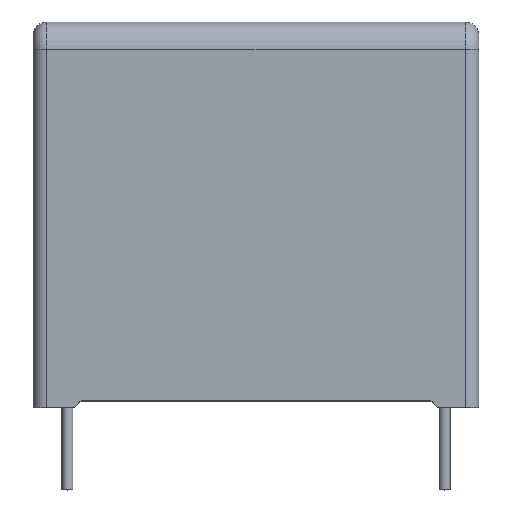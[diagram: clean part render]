
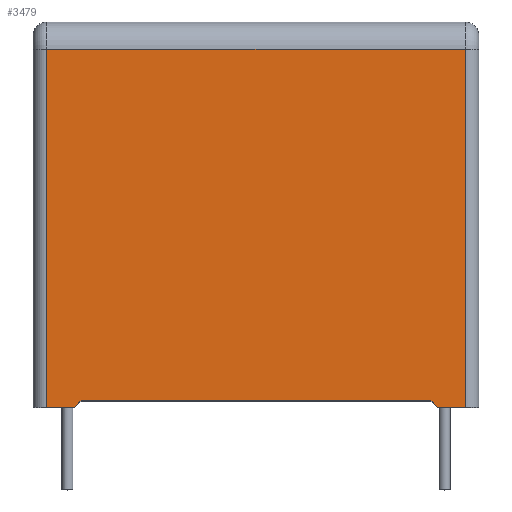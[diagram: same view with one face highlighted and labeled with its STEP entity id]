
A CAD part, top view. The second image highlights one B-rep face of the part: STEP entity #3479.
In plain terms, the highlighted planar face has unit normal (0, 0, 1).
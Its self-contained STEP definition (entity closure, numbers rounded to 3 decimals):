
#50 = LINE ( 'NONE', #1290, #57 ) ;
#57 = VECTOR ( 'NONE', #876, 1000. ) ;
#221 = DIRECTION ( 'NONE',  ( -1., 0., 0. ) ) ;
#254 = FACE_OUTER_BOUND ( 'NONE', #1361, .T. ) ;
#759 = PLANE ( 'NONE',  #3934 ) ;
#789 = DIRECTION ( 'NONE',  ( 0., -1., 0. ) ) ;
#817 = CARTESIAN_POINT ( 'NONE',  ( 12.75, 0.5, 9.25 ) ) ;
#876 = DIRECTION ( 'NONE',  ( 1., 0., 0. ) ) ;
#1112 = VECTOR ( 'NONE', #3218, 1000. ) ;
#1119 = LINE ( 'NONE', #1209, #1112 ) ;
#1124 = LINE ( 'NONE', #2913, #1127 ) ;
#1127 = VECTOR ( 'NONE', #1227, 1000. ) ;
#1128 = VECTOR ( 'NONE', #4064, 1000. ) ;
#1160 = VECTOR ( 'NONE', #1969, 1000. ) ;
#1175 = LINE ( 'NONE', #817, #1160 ) ;
#1178 = CARTESIAN_POINT ( 'NONE',  ( -15.25, 28.1, 9.25 ) ) ;
#1196 = LINE ( 'NONE', #1598, #1128 ) ;
#1209 = CARTESIAN_POINT ( 'NONE',  ( -16.25, 26.1, 9.25 ) ) ;
#1227 = DIRECTION ( 'NONE',  ( -0.707, -0.707, 0. ) ) ;
#1290 = CARTESIAN_POINT ( 'NONE',  ( -16.25, 0., 9.25 ) ) ;
#1299 = VECTOR ( 'NONE', #3117, 1000. ) ;
#1315 = LINE ( 'NONE', #1491, #1299 ) ;
#1361 = EDGE_LOOP ( 'NONE', ( #2525, #2534, #2556, #2559, #2565, #2577, #2580, #2585 ) ) ;
#1491 = CARTESIAN_POINT ( 'NONE',  ( -16.25, 0., 9.25 ) ) ;
#1499 = VERTEX_POINT ( 'NONE', #3455 ) ;
#1519 = VERTEX_POINT ( 'NONE', #2575 ) ;
#1541 = DIRECTION ( 'NONE',  ( -1., 0., 0. ) ) ;
#1566 = CARTESIAN_POINT ( 'NONE',  ( -13.25, 0., 9.25 ) ) ;
#1598 = CARTESIAN_POINT ( 'NONE',  ( 15.25, 28.1, 9.25 ) ) ;
#1678 = CARTESIAN_POINT ( 'NONE',  ( -15.25, 26.1, 9.25 ) ) ;
#1704 = EDGE_CURVE ( 'NONE', #1880, #3109, #50, .T. ) ;
#1705 = VERTEX_POINT ( 'NONE', #1678 ) ;
#1743 = VECTOR ( 'NONE', #789, 1000. ) ;
#1776 = VERTEX_POINT ( 'NONE', #3884 ) ;
#1781 = EDGE_CURVE ( 'NONE', #1499, #1776, #2006, .T. ) ;
#1785 = LINE ( 'NONE', #1178, #1743 ) ;
#1880 = VERTEX_POINT ( 'NONE', #3411 ) ;
#1969 = DIRECTION ( 'NONE',  ( -0.707, 0.707, 0. ) ) ;
#2006 = LINE ( 'NONE', #3591, #2025 ) ;
#2025 = VECTOR ( 'NONE', #221, 1000. ) ;
#2038 = CARTESIAN_POINT ( 'NONE',  ( 15.25, 26.1, 9.25 ) ) ;
#2219 = EDGE_CURVE ( 'NONE', #1705, #1880, #1785, .T. ) ;
#2525 = ORIENTED_EDGE ( 'NONE', *, *, #1781, .F. ) ;
#2534 = ORIENTED_EDGE ( 'NONE', *, *, #2711, .F. ) ;
#2556 = ORIENTED_EDGE ( 'NONE', *, *, #2574, .T. ) ;
#2559 = ORIENTED_EDGE ( 'NONE', *, *, #2716, .T. ) ;
#2565 = ORIENTED_EDGE ( 'NONE', *, *, #2728, .T. ) ;
#2574 = EDGE_CURVE ( 'NONE', #1519, #3607, #1315, .T. ) ;
#2575 = CARTESIAN_POINT ( 'NONE',  ( 13.25, 0., 9.25 ) ) ;
#2577 = ORIENTED_EDGE ( 'NONE', *, *, #2219, .T. ) ;
#2580 = ORIENTED_EDGE ( 'NONE', *, *, #1704, .T. ) ;
#2585 = ORIENTED_EDGE ( 'NONE', *, *, #2734, .F. ) ;
#2711 = EDGE_CURVE ( 'NONE', #1519, #1499, #1175, .T. ) ;
#2716 = EDGE_CURVE ( 'NONE', #3607, #4091, #1196, .T. ) ;
#2728 = EDGE_CURVE ( 'NONE', #4091, #1705, #1119, .T. ) ;
#2734 = EDGE_CURVE ( 'NONE', #1776, #3109, #1124, .T. ) ;
#2913 = CARTESIAN_POINT ( 'NONE',  ( -13.25, 0., 9.25 ) ) ;
#3109 = VERTEX_POINT ( 'NONE', #1566 ) ;
#3117 = DIRECTION ( 'NONE',  ( 1., 0., 0. ) ) ;
#3158 = CARTESIAN_POINT ( 'NONE',  ( -16.25, 28.1, 9.25 ) ) ;
#3218 = DIRECTION ( 'NONE',  ( -1., 0., 0. ) ) ;
#3411 = CARTESIAN_POINT ( 'NONE',  ( -15.25, 0., 9.25 ) ) ;
#3454 = DIRECTION ( 'NONE',  ( 0., 0., -1. ) ) ;
#3455 = CARTESIAN_POINT ( 'NONE',  ( 12.75, 0.5, 9.25 ) ) ;
#3479 = ADVANCED_FACE ( 'NONE', ( #254 ), #759, .F. ) ;
#3562 = CARTESIAN_POINT ( 'NONE',  ( 15.25, 0., 9.25 ) ) ;
#3591 = CARTESIAN_POINT ( 'NONE',  ( -12.75, 0.5, 9.25 ) ) ;
#3607 = VERTEX_POINT ( 'NONE', #3562 ) ;
#3884 = CARTESIAN_POINT ( 'NONE',  ( -12.75, 0.5, 9.25 ) ) ;
#3934 = AXIS2_PLACEMENT_3D ( 'NONE', #3158, #3454, #1541 ) ;
#4064 = DIRECTION ( 'NONE',  ( 0., 1., 0. ) ) ;
#4091 = VERTEX_POINT ( 'NONE', #2038 ) ;
